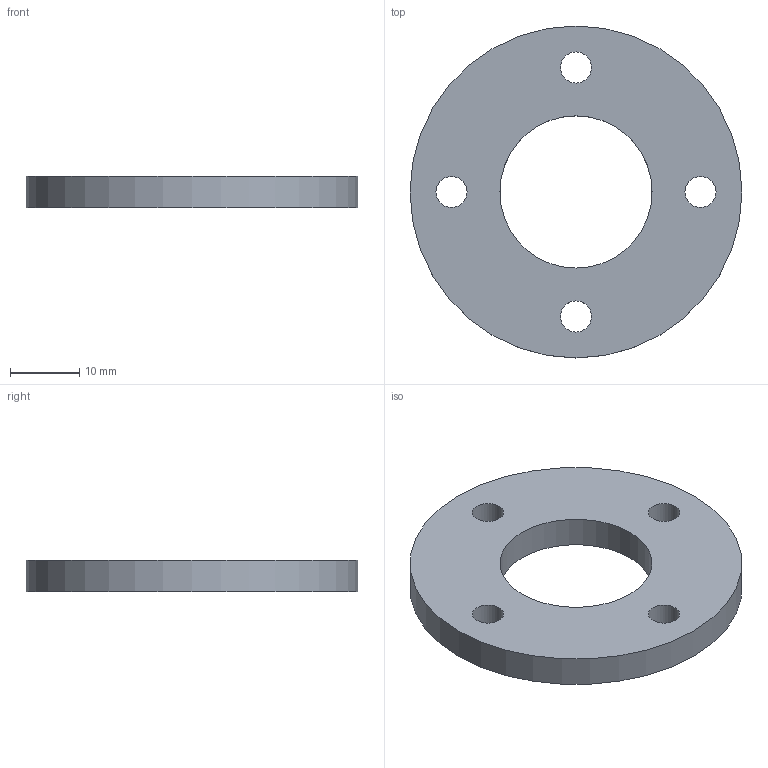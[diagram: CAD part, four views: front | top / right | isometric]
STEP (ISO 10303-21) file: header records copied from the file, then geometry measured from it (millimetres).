
FILE_DESCRIPTION(/* description */ (''),/* implementation_level */ '2;1');
FILE_NAME(/* name */ '',/* time_stamp */ '2024-07-29T13:46:11+09:00',/* author */ ('jhkim'),/* organization */ (''),/* preprocessor_version */ 'ST-DEVELOPER v20',/* originating_system */ 'Autodesk Inventor 2025',/* authorisation */ '');
FILE_SCHEMA (('AUTOMOTIVE_DESIGN { 1 0 10303 214 3 1 1 }'));
Length unit declared in the file: millimetre
Products named in the file (1): 부시 커버
Bounding box: 48 x 48 x 4.5 mm (x, y, z)
Volume: 6146.1 mm3; surface area: 3975.7 mm2
Topology: 1 solids, 1 shells, 8 faces, 18 edges, 12 vertices
Faces by surface type: cylinder 6, plane 2
Full cylindrical faces by diameter (mm): 4.5 x4, 22 x1, 48 x1
Entity records: 297 total; most frequent: DIRECTION 48, CARTESIAN_POINT 39, ORIENTED_EDGE 36, AXIS2_PLACEMENT_3D 21, EDGE_LOOP 18, EDGE_CURVE 18, CIRCLE 12, VERTEX_POINT 12
